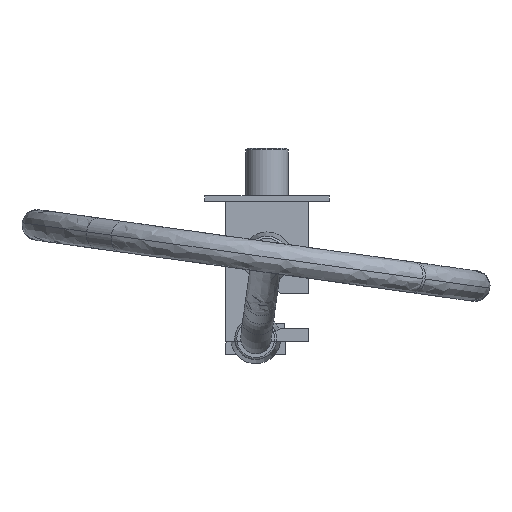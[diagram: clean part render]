
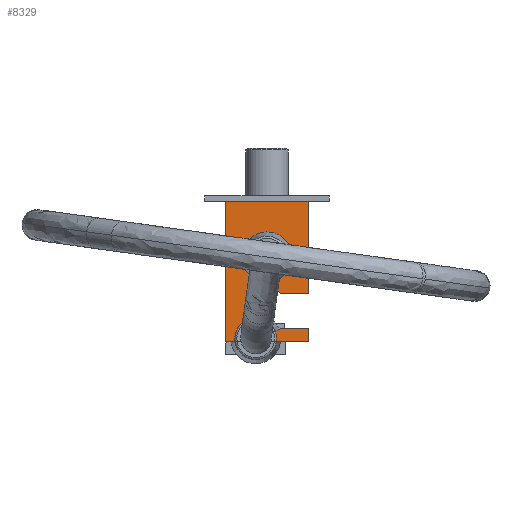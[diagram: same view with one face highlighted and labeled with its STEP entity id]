
A CAD part, left-side view. The second image highlights one B-rep face of the part: STEP entity #8329.
In plain terms, the highlighted planar face has unit normal (-1, 0, 0) as drawn and (0, -1, 0) by its records, which use the part's own axes.
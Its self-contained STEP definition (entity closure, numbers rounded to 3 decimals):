
#144 = CARTESIAN_POINT ( 'NONE',  ( -11.75, -7.5, 52.5 ) ) ;
#202 = VECTOR ( 'NONE', #3582, 1000. ) ;
#552 = CARTESIAN_POINT ( 'NONE',  ( 20., -7.5, 93.5 ) ) ;
#616 = CARTESIAN_POINT ( 'NONE',  ( 0., -7.5, 52.5 ) ) ;
#767 = DIRECTION ( 'NONE',  ( 0., -1., 0. ) ) ;
#835 = LINE ( 'NONE', #3947, #8601 ) ;
#865 = EDGE_CURVE ( 'NONE', #3177, #3705, #4214, .T. ) ;
#978 = CARTESIAN_POINT ( 'NONE',  ( 20., -7.5, 70. ) ) ;
#1690 = EDGE_CURVE ( 'NONE', #6124, #3053, #2990, .T. ) ;
#1764 = VERTEX_POINT ( 'NONE', #2960 ) ;
#1791 = VECTOR ( 'NONE', #4650, 1000. ) ;
#1796 = VERTEX_POINT ( 'NONE', #6011 ) ;
#1901 = DIRECTION ( 'NONE',  ( 0., 1., 0. ) ) ;
#1922 = LINE ( 'NONE', #4758, #8097 ) ;
#2073 = LINE ( 'NONE', #7251, #202 ) ;
#2474 = CARTESIAN_POINT ( 'NONE',  ( 11.75, -7.5, 52.5 ) ) ;
#2698 = FACE_OUTER_BOUND ( 'NONE', #8242, .T. ) ;
#2960 = CARTESIAN_POINT ( 'NONE',  ( -20., -7.5, 25.5 ) ) ;
#2990 = CIRCLE ( 'NONE', #7624, 11.75 ) ;
#3014 = DIRECTION ( 'NONE',  ( 0., -1., 0. ) ) ;
#3053 = VERTEX_POINT ( 'NONE', #2474 ) ;
#3177 = VERTEX_POINT ( 'NONE', #5815 ) ;
#3190 = ORIENTED_EDGE ( 'NONE', *, *, #7997, .T. ) ;
#3251 = ORIENTED_EDGE ( 'NONE', *, *, #865, .T. ) ;
#3495 = VERTEX_POINT ( 'NONE', #7785 ) ;
#3557 = VERTEX_POINT ( 'NONE', #7012 ) ;
#3582 = DIRECTION ( 'NONE',  ( 1., 0., 0. ) ) ;
#3705 = VERTEX_POINT ( 'NONE', #8022 ) ;
#3711 = ORIENTED_EDGE ( 'NONE', *, *, #6064, .T. ) ;
#3747 = DIRECTION ( 'NONE',  ( -1., 0., 0. ) ) ;
#3799 = CARTESIAN_POINT ( 'NONE',  ( -20., -7.5, 93.5 ) ) ;
#3808 = EDGE_CURVE ( 'NONE', #1764, #8180, #8355, .T. ) ;
#3847 = ORIENTED_EDGE ( 'NONE', *, *, #1690, .F. ) ;
#3935 = EDGE_LOOP ( 'NONE', ( #3847, #5651 ) ) ;
#3947 = CARTESIAN_POINT ( 'NONE',  ( -20., -7.5, 93.5 ) ) ;
#4022 = DIRECTION ( 'NONE',  ( 1., 0., 0. ) ) ;
#4214 = LINE ( 'NONE', #4856, #4398 ) ;
#4277 = EDGE_CURVE ( 'NONE', #3495, #1796, #9119, .T. ) ;
#4285 = DIRECTION ( 'NONE',  ( -1., 0., 0. ) ) ;
#4398 = VECTOR ( 'NONE', #4022, 1000. ) ;
#4508 = CARTESIAN_POINT ( 'NONE',  ( 20., -7.5, 25.5 ) ) ;
#4650 = DIRECTION ( 'NONE',  ( 1., 0., 0. ) ) ;
#4758 = CARTESIAN_POINT ( 'NONE',  ( -20., -7.5, 93.5 ) ) ;
#4856 = CARTESIAN_POINT ( 'NONE',  ( 20., -7.5, 87. ) ) ;
#5092 = DIRECTION ( 'NONE',  ( -1., 0., 0. ) ) ;
#5100 = ORIENTED_EDGE ( 'NONE', *, *, #7167, .F. ) ;
#5430 = EDGE_CURVE ( 'NONE', #3557, #8180, #9526, .T. ) ;
#5649 = DIRECTION ( 'NONE',  ( 0., 1., 0. ) ) ;
#5651 = ORIENTED_EDGE ( 'NONE', *, *, #6585, .F. ) ;
#5697 = PLANE ( 'NONE',  #6844 ) ;
#5815 = CARTESIAN_POINT ( 'NONE',  ( -20., -7.5, 87. ) ) ;
#6011 = CARTESIAN_POINT ( 'NONE',  ( -20., -7.5, 70. ) ) ;
#6064 = EDGE_CURVE ( 'NONE', #6522, #3177, #835, .T. ) ;
#6112 = CIRCLE ( 'NONE', #9520, 11.75 ) ;
#6124 = VERTEX_POINT ( 'NONE', #144 ) ;
#6179 = CARTESIAN_POINT ( 'NONE',  ( 20., -7.5, 25.5 ) ) ;
#6330 = FACE_BOUND ( 'NONE', #3935, .T. ) ;
#6350 = ORIENTED_EDGE ( 'NONE', *, *, #5430, .F. ) ;
#6468 = DIRECTION ( 'NONE',  ( -1., 0., 0. ) ) ;
#6522 = VERTEX_POINT ( 'NONE', #3799 ) ;
#6569 = CARTESIAN_POINT ( 'NONE',  ( 20., -7.5, 93.5 ) ) ;
#6585 = EDGE_CURVE ( 'NONE', #3053, #6124, #6112, .T. ) ;
#6844 = AXIS2_PLACEMENT_3D ( 'NONE', #552, #5649, #6468 ) ;
#6942 = ORIENTED_EDGE ( 'NONE', *, *, #3808, .T. ) ;
#6960 = DIRECTION ( 'NONE',  ( 0., 0., -1. ) ) ;
#7012 = CARTESIAN_POINT ( 'NONE',  ( 20., -7.5, 93.5 ) ) ;
#7158 = ORIENTED_EDGE ( 'NONE', *, *, #8710, .T. ) ;
#7167 = EDGE_CURVE ( 'NONE', #6522, #3557, #2073, .T. ) ;
#7251 = CARTESIAN_POINT ( 'NONE',  ( 20., -7.5, 93.5 ) ) ;
#7417 = CARTESIAN_POINT ( 'NONE',  ( 0., -7.5, 52.5 ) ) ;
#7427 = DIRECTION ( 'NONE',  ( 0., 0., -1. ) ) ;
#7509 = ORIENTED_EDGE ( 'NONE', *, *, #4277, .T. ) ;
#7579 = DIRECTION ( 'NONE',  ( -1., 0., 0. ) ) ;
#7624 = AXIS2_PLACEMENT_3D ( 'NONE', #616, #3014, #5092 ) ;
#7785 = CARTESIAN_POINT ( 'NONE',  ( -6.356, -7.5, 70. ) ) ;
#7902 = CARTESIAN_POINT ( 'NONE',  ( 0., -7.5, 78.5 ) ) ;
#7923 = CIRCLE ( 'NONE', #9329, 10.614 ) ;
#7997 = EDGE_CURVE ( 'NONE', #1796, #1764, #1922, .T. ) ;
#8022 = CARTESIAN_POINT ( 'NONE',  ( -6.356, -7.5, 87. ) ) ;
#8097 = VECTOR ( 'NONE', #6960, 1000. ) ;
#8180 = VERTEX_POINT ( 'NONE', #4508 ) ;
#8242 = EDGE_LOOP ( 'NONE', ( #7158, #7509, #3190, #6942, #6350, #5100, #3711, #3251 ) ) ;
#8329 = ADVANCED_FACE ( 'NONE', ( #2698, #6330 ), #5697, .F. ) ;
#8355 = LINE ( 'NONE', #6179, #1791 ) ;
#8509 = VECTOR ( 'NONE', #7579, 1000. ) ;
#8601 = VECTOR ( 'NONE', #7427, 1000. ) ;
#8710 = EDGE_CURVE ( 'NONE', #3705, #3495, #7923, .T. ) ;
#8895 = DIRECTION ( 'NONE',  ( 0., 0., -1. ) ) ;
#8973 = VECTOR ( 'NONE', #8895, 1000. ) ;
#9119 = LINE ( 'NONE', #978, #8509 ) ;
#9329 = AXIS2_PLACEMENT_3D ( 'NONE', #7902, #1901, #4285 ) ;
#9520 = AXIS2_PLACEMENT_3D ( 'NONE', #7417, #767, #3747 ) ;
#9526 = LINE ( 'NONE', #6569, #8973 ) ;
